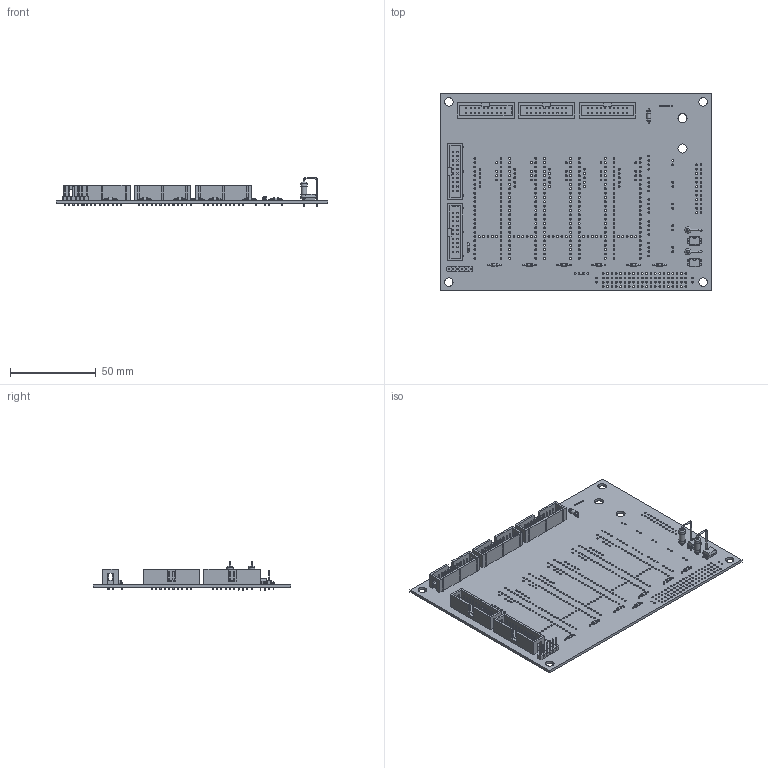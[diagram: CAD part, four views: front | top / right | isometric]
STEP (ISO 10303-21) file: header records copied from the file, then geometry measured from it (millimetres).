
FILE_DESCRIPTION(('KiCad electronic assembly'),'2;1');
FILE_NAME('FD_Display.step','2020-05-27T20:22:05',('An Author'),( 'A Company'),'Open CASCADE STEP processor 6.9', 'KiCad to STEP converter','Unknown');
FILE_SCHEMA(('AUTOMOTIVE_DESIGN { 1 0 10303 214 1 1 1 1 }'));
Length unit declared in the file: millimetre
Products named in the file (16): Open CASCADE STEP translator 6.9 1; R_Axial_DIN0204_L3.6mm_D1.6mm_P7.62mm_Horizontal; SOLID; R_Axial_DIN0204_L3.6mm_D1.6mm_P5.08mm_Horizontal; PinHeader_1x06_P2.54mm_Vertical; R_Axial_DIN0411_L9.9mm_D3.6mm_P7.62mm_Vertical; R_Axial_DIN0207_L6.3mm_D2.5mm_P7.62mm_Horizontal; IDC-Header_2x10_P2.54mm_Vertical; DIP-4_W7.62mm; COMPOUND
Assembly tree (27 placements, depth 3):
  Open CASCADE STEP translator 6.9 1
    R_Axial_DIN0204_L3.6mm_D1.6mm_P7.62mm_Horizontal  x7
      SOLID
    R_Axial_DIN0204_L3.6mm_D1.6mm_P5.08mm_Horizontal
      SOLID
    PinHeader_1x06_P2.54mm_Vertical
      SOLID
    R_Axial_DIN0411_L9.9mm_D3.6mm_P7.62mm_Vertical  x2
      SOLID
    R_Axial_DIN0207_L6.3mm_D2.5mm_P7.62mm_Horizontal
      SOLID
    IDC-Header_2x10_P2.54mm_Vertical  x5
      SOLID
    DIP-4_W7.62mm  x2
      SOLID
    COMPOUND
Bounding box: 158.75 x 115.57 x 16.8 mm (x, y, z)
Volume: 35454 mm3; surface area: 51835.6 mm2
Topology: 20 solids, 20 shells, 3102 faces, 7456 edges, 4660 vertices
Faces by surface type: plane 2295, cylinder 731, torus 44, bspline 32
Full cylindrical faces by diameter (mm): 0.5 x30, 0.6 x2, 0.7 x16, 0.8 x18, 0.94 x5, 1 x274, 1.1 x310, 1.2 x4, 1.44 x8, 1.6 x16, 2.25 x1, 2.5 x2, 3.24 x2, 3.6 x4, 5 x4, 5.3 x2
Entity records: 94478 total; most frequent: CARTESIAN_POINT 17056, DIRECTION 13929, LINE 7479, VECTOR 7479, ORIENTED_EDGE 6758, PCURVE 6758, DEFINITIONAL_REPRESENTATION 6758, EDGE_CURVE 3379
